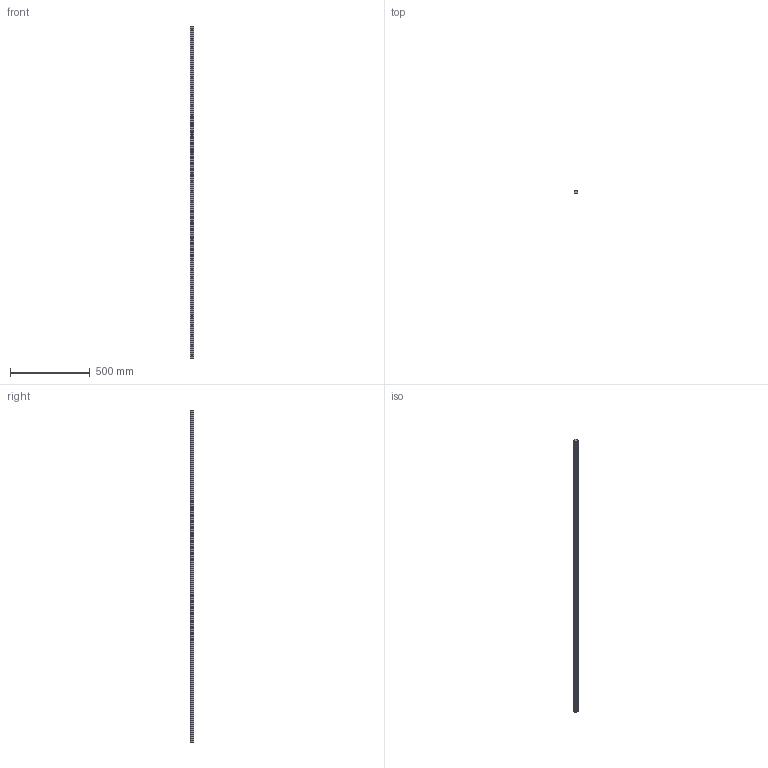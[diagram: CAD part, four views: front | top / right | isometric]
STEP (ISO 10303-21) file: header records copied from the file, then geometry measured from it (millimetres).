
FILE_DESCRIPTION (( 'STEP AP203' ), '1' );
FILE_NAME ('L1016.BL25-2080.step', '2019-06-12T12:09:55', ( '' ), ( '' ), 'SwSTEP 2.0', 'SolidWorks 2017', '' );
FILE_SCHEMA (( 'CONFIG_CONTROL_DESIGN' ));
Length unit declared in the file: millimetre
Products named in the file (1): L1016.BL25-2080
Bounding box: 23 x 19.2 x 2080 mm (x, y, z)
Volume: 766389.2 mm3; surface area: 197075.5 mm2
Topology: 1 solids, 1 shells, 201 faces, 492 edges, 328 vertices
Faces by surface type: cylinder 144, plane 57
Entity records: 6291 total; most frequent: DIRECTION 1184, CARTESIAN_POINT 1022, ORIENTED_EDGE 984, EDGE_CURVE 492, AXIS2_PLACEMENT_3D 490, VERTEX_POINT 328, EDGE_LOOP 306, CIRCLE 288
